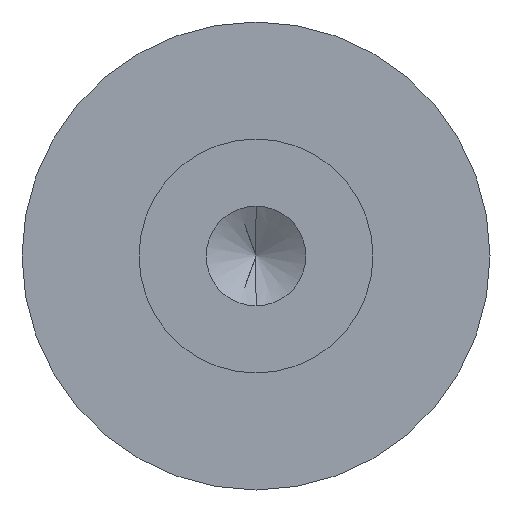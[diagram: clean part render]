
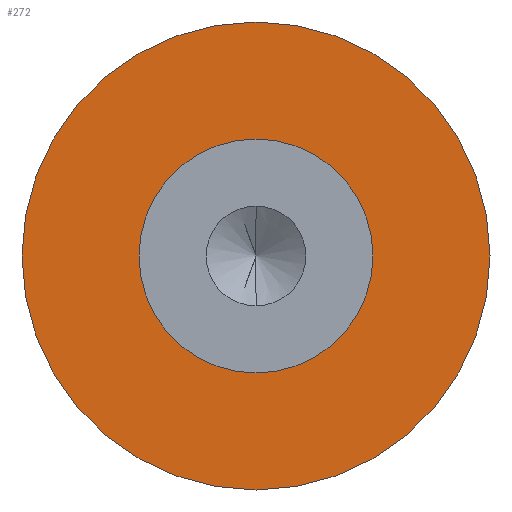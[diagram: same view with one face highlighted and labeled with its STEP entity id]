
A CAD part, front view. The second image highlights one B-rep face of the part: STEP entity #272.
In plain terms, the highlighted planar face has unit normal (0, -1, 0).
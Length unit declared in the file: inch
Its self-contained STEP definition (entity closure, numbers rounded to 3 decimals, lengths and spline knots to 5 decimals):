
#67 = VERTEX_POINT ( 'NONE', #127 ) ;
#93 = CARTESIAN_POINT ( 'NONE',  ( -1.10557, -0.5, 0. ) ) ;
#94 = DIRECTION ( 'NONE',  ( 0., 1., 0. ) ) ;
#95 = DIRECTION ( 'NONE',  ( 0., 0., 1. ) ) ;
#101 = PLANE ( 'NONE',  #496 ) ;
#102 = CARTESIAN_POINT ( 'NONE',  ( 0., -0.5, 0.25 ) ) ;
#105 = CARTESIAN_POINT ( 'NONE',  ( 0., -0.5, 0.5 ) ) ;
#110 = CARTESIAN_POINT ( 'NONE',  ( 0., -0.5, -0.25 ) ) ;
#127 = CARTESIAN_POINT ( 'NONE',  ( 0., -0.5, -0.5 ) ) ;
#138 = CARTESIAN_POINT ( 'NONE',  ( 0., -0.5, 0. ) ) ;
#141 = DIRECTION ( 'NONE',  ( 0., 1., 0. ) ) ;
#178 = DIRECTION ( 'NONE',  ( 0., 0., 1. ) ) ;
#183 = DIRECTION ( 'NONE',  ( 0., 0., 1. ) ) ;
#190 = CARTESIAN_POINT ( 'NONE',  ( 0., -0.5, 0. ) ) ;
#197 = DIRECTION ( 'NONE',  ( 0., -1., 0. ) ) ;
#210 = DIRECTION ( 'NONE',  ( 0., 0., 1. ) ) ;
#214 = DIRECTION ( 'NONE',  ( 0., 1., 0. ) ) ;
#223 = DIRECTION ( 'NONE',  ( 0., -1., 0. ) ) ;
#229 = CARTESIAN_POINT ( 'NONE',  ( 0., -0.5, 0. ) ) ;
#234 = DIRECTION ( 'NONE',  ( 0., 0., 1. ) ) ;
#236 = CARTESIAN_POINT ( 'NONE',  ( 0., -0.5, 0. ) ) ;
#249 = VERTEX_POINT ( 'NONE', #102 ) ;
#258 = VERTEX_POINT ( 'NONE', #110 ) ;
#260 = VERTEX_POINT ( 'NONE', #105 ) ;
#272 = ADVANCED_FACE ( 'NONE', ( #432, #425 ), #101, .F. ) ;
#290 = ORIENTED_EDGE ( 'NONE', *, *, #535, .F. ) ;
#307 = ORIENTED_EDGE ( 'NONE', *, *, #527, .F. ) ;
#326 = ORIENTED_EDGE ( 'NONE', *, *, #504, .F. ) ;
#333 = ORIENTED_EDGE ( 'NONE', *, *, #512, .F. ) ;
#369 = EDGE_LOOP ( 'NONE', ( #307, #326 ) ) ;
#374 = EDGE_LOOP ( 'NONE', ( #290, #333 ) ) ;
#425 = FACE_BOUND ( 'NONE', #374, .T. ) ;
#432 = FACE_OUTER_BOUND ( 'NONE', #369, .T. ) ;
#455 = CIRCLE ( 'NONE', #555, 0.5 ) ;
#457 = CIRCLE ( 'NONE', #563, 0.5 ) ;
#478 = CIRCLE ( 'NONE', #559, 0.25 ) ;
#483 = CIRCLE ( 'NONE', #560, 0.25 ) ;
#496 = AXIS2_PLACEMENT_3D ( 'NONE', #93, #94, #95 ) ;
#504 = EDGE_CURVE ( 'NONE', #260, #67, #455, .T. ) ;
#512 = EDGE_CURVE ( 'NONE', #249, #258, #483, .T. ) ;
#527 = EDGE_CURVE ( 'NONE', #67, #260, #457, .T. ) ;
#535 = EDGE_CURVE ( 'NONE', #258, #249, #478, .T. ) ;
#555 = AXIS2_PLACEMENT_3D ( 'NONE', #138, #141, #183 ) ;
#559 = AXIS2_PLACEMENT_3D ( 'NONE', #236, #223, #210 ) ;
#560 = AXIS2_PLACEMENT_3D ( 'NONE', #190, #197, #178 ) ;
#563 = AXIS2_PLACEMENT_3D ( 'NONE', #229, #214, #234 ) ;
